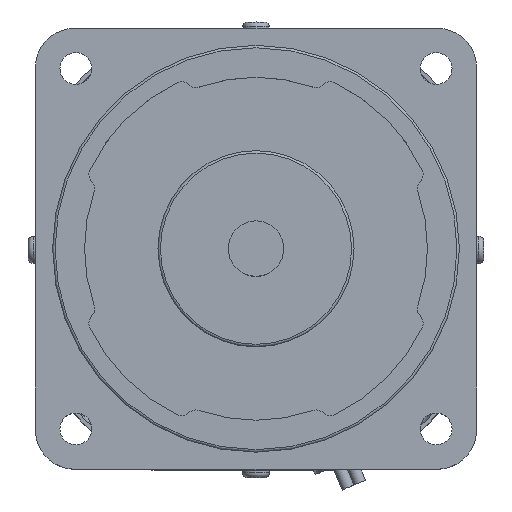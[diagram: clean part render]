
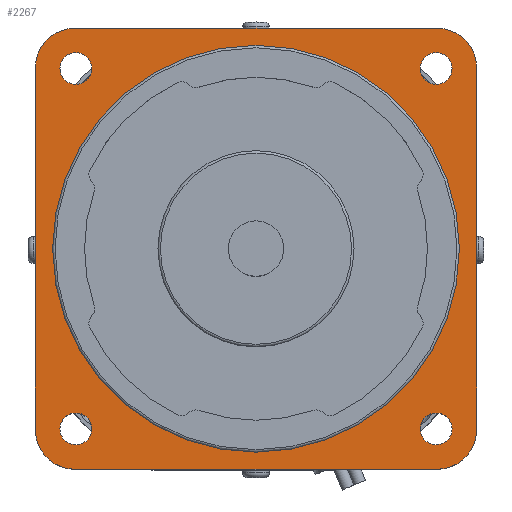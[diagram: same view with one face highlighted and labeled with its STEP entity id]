
A CAD part, top view. The second image highlights one B-rep face of the part: STEP entity #2267.
In plain terms, the highlighted planar face has unit normal (0, 0, 1).
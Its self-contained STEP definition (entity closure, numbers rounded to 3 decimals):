
#91=CARTESIAN_POINT('',(-45.0,-37.0,155.));
#92=VERTEX_POINT('',#91);
#99=CARTESIAN_POINT('',(-45.0,37.,155.));
#100=VERTEX_POINT('',#99);
#101=CARTESIAN_POINT('',(-45.0,-37.0,155.));
#102=DIRECTION('',(0.0,1.0,0.0));
#103=VECTOR('',#102,74.0);
#104=LINE('',#101,#103);
#105=EDGE_CURVE('',#92,#100,#104,.T.);
#1067=CARTESIAN_POINT('',(45.0,37.0,155.));
#1068=VERTEX_POINT('',#1067);
#1069=CARTESIAN_POINT('',(45.0,-37.,155.));
#1070=VERTEX_POINT('',#1069);
#1071=CARTESIAN_POINT('',(45.0,37.0,155.));
#1072=DIRECTION('',(0.0,-1.0,0.0));
#1073=VECTOR('',#1072,74.0);
#1074=LINE('',#1071,#1073);
#1075=EDGE_CURVE('',#1068,#1070,#1074,.T.);
#1113=CARTESIAN_POINT('',(40.02,36.77,155.));
#1114=VERTEX_POINT('',#1113);
#1115=CARTESIAN_POINT('',(36.77,36.77,155.));
#1116=DIRECTION('',(0.0,0.0,-1.0));
#1117=DIRECTION('',(-1.0,0.0,0.0));
#1118=AXIS2_PLACEMENT_3D('',#1115,#1116,#1117);
#1119=CIRCLE('',#1118,3.25);
#1120=EDGE_CURVE('',#1114,#1114,#1119,.T.);
#1139=CARTESIAN_POINT('',(37.,45.0,155.));
#1140=VERTEX_POINT('',#1139);
#1147=CARTESIAN_POINT('',(37.0,37.0,155.));
#1148=DIRECTION('',(0.0,0.0,-1.0));
#1149=DIRECTION('',(-1.0,0.0,0.0));
#1150=AXIS2_PLACEMENT_3D('',#1147,#1148,#1149);
#1151=CIRCLE('',#1150,8.);
#1152=EDGE_CURVE('',#1140,#1068,#1151,.T.);
#1166=CARTESIAN_POINT('',(40.02,-36.77,155.));
#1167=VERTEX_POINT('',#1166);
#1168=CARTESIAN_POINT('',(36.77,-36.77,155.));
#1169=DIRECTION('',(0.0,0.0,-1.0));
#1170=DIRECTION('',(-1.0,0.0,0.0));
#1171=AXIS2_PLACEMENT_3D('',#1168,#1169,#1170);
#1172=CIRCLE('',#1171,3.25);
#1173=EDGE_CURVE('',#1167,#1167,#1172,.T.);
#1185=CARTESIAN_POINT('',(37.0,-45.0,155.));
#1186=VERTEX_POINT('',#1185);
#1187=CARTESIAN_POINT('',(37.0,-37.0,155.));
#1188=DIRECTION('',(0.0,0.0,-1.0));
#1189=DIRECTION('',(0.0,1.0,0.0));
#1190=AXIS2_PLACEMENT_3D('',#1187,#1188,#1189);
#1191=CIRCLE('',#1190,8.);
#1192=EDGE_CURVE('',#1070,#1186,#1191,.T.);
#1211=CARTESIAN_POINT('',(-33.52,-36.77,155.));
#1212=VERTEX_POINT('',#1211);
#1213=CARTESIAN_POINT('',(-36.77,-36.77,155.));
#1214=DIRECTION('',(0.0,0.0,-1.0));
#1215=DIRECTION('',(-1.0,0.0,0.0));
#1216=AXIS2_PLACEMENT_3D('',#1213,#1214,#1215);
#1217=CIRCLE('',#1216,3.25);
#1218=EDGE_CURVE('',#1212,#1212,#1217,.T.);
#1237=CARTESIAN_POINT('',(-37.,-45.0,155.));
#1238=VERTEX_POINT('',#1237);
#1245=CARTESIAN_POINT('',(-37.0,-37.0,155.));
#1246=DIRECTION('',(0.0,0.0,-1.0));
#1247=DIRECTION('',(1.0,0.0,0.0));
#1248=AXIS2_PLACEMENT_3D('',#1245,#1246,#1247);
#1249=CIRCLE('',#1248,8.);
#1250=EDGE_CURVE('',#1238,#92,#1249,.T.);
#1261=CARTESIAN_POINT('',(37.0,-45.0,155.));
#1262=DIRECTION('',(-1.0,0.0,0.0));
#1263=VECTOR('',#1262,74.0);
#1264=LINE('',#1261,#1263);
#1265=EDGE_CURVE('',#1186,#1238,#1264,.T.);
#1289=CARTESIAN_POINT('',(-33.52,36.77,155.));
#1290=VERTEX_POINT('',#1289);
#1291=CARTESIAN_POINT('',(-36.77,36.77,155.));
#1292=DIRECTION('',(0.0,0.0,-1.0));
#1293=DIRECTION('',(-1.0,0.0,0.0));
#1294=AXIS2_PLACEMENT_3D('',#1291,#1292,#1293);
#1295=CIRCLE('',#1294,3.25);
#1296=EDGE_CURVE('',#1290,#1290,#1295,.T.);
#1306=CARTESIAN_POINT('',(-37.0,45.0,155.));
#1307=VERTEX_POINT('',#1306);
#1308=CARTESIAN_POINT('',(-37.0,45.0,155.));
#1309=DIRECTION('',(1.0,0.0,0.0));
#1310=VECTOR('',#1309,74.0);
#1311=LINE('',#1308,#1310);
#1312=EDGE_CURVE('',#1307,#1140,#1311,.T.);
#1351=CARTESIAN_POINT('',(-37.0,37.0,155.));
#1352=DIRECTION('',(0.0,0.0,-1.0));
#1353=DIRECTION('',(0.0,-1.0,0.0));
#1354=AXIS2_PLACEMENT_3D('',#1351,#1352,#1353);
#1355=CIRCLE('',#1354,8.);
#1356=EDGE_CURVE('',#100,#1307,#1355,.T.);
#2222=CARTESIAN_POINT('',(41.5,0.,155.));
#2223=VERTEX_POINT('',#2222);
#2224=CARTESIAN_POINT('',(0.,0.,155.));
#2225=DIRECTION('',(0.0,0.0,-1.0));
#2226=DIRECTION('',(-1.0,0.0,0.0));
#2227=AXIS2_PLACEMENT_3D('',#2224,#2225,#2226);
#2228=CIRCLE('',#2227,41.5);
#2229=EDGE_CURVE('',#2223,#2223,#2228,.T.);
#2237=CARTESIAN_POINT('',(0.,0.,155.));
#2238=DIRECTION('',(0.0,0.0,-1.0));
#2239=DIRECTION('',(-1.0,0.0,0.0));
#2240=AXIS2_PLACEMENT_3D('',#2237,#2238,#2239);
#2241=PLANE('',#2240);
#2242=ORIENTED_EDGE('',*,*,#1075,.F.);
#2243=ORIENTED_EDGE('',*,*,#1152,.F.);
#2244=ORIENTED_EDGE('',*,*,#1312,.F.);
#2245=ORIENTED_EDGE('',*,*,#1356,.F.);
#2246=ORIENTED_EDGE('',*,*,#105,.F.);
#2247=ORIENTED_EDGE('',*,*,#1250,.F.);
#2248=ORIENTED_EDGE('',*,*,#1265,.F.);
#2249=ORIENTED_EDGE('',*,*,#1192,.F.);
#2250=EDGE_LOOP('',(#2242,#2243,#2244,#2245,#2246,#2247,#2248,#2249));
#2251=FACE_OUTER_BOUND('',#2250,.T.);
#2252=ORIENTED_EDGE('',*,*,#2229,.T.);
#2253=EDGE_LOOP('',(#2252));
#2254=FACE_BOUND('',#2253,.T.);
#2255=ORIENTED_EDGE('',*,*,#1296,.T.);
#2256=EDGE_LOOP('',(#2255));
#2257=FACE_BOUND('',#2256,.T.);
#2258=ORIENTED_EDGE('',*,*,#1218,.T.);
#2259=EDGE_LOOP('',(#2258));
#2260=FACE_BOUND('',#2259,.T.);
#2261=ORIENTED_EDGE('',*,*,#1173,.T.);
#2262=EDGE_LOOP('',(#2261));
#2263=FACE_BOUND('',#2262,.T.);
#2264=ORIENTED_EDGE('',*,*,#1120,.T.);
#2265=EDGE_LOOP('',(#2264));
#2266=FACE_BOUND('',#2265,.T.);
#2267=ADVANCED_FACE('',(#2251,#2254,#2257,#2260,#2263,#2266),#2241,.F.);
